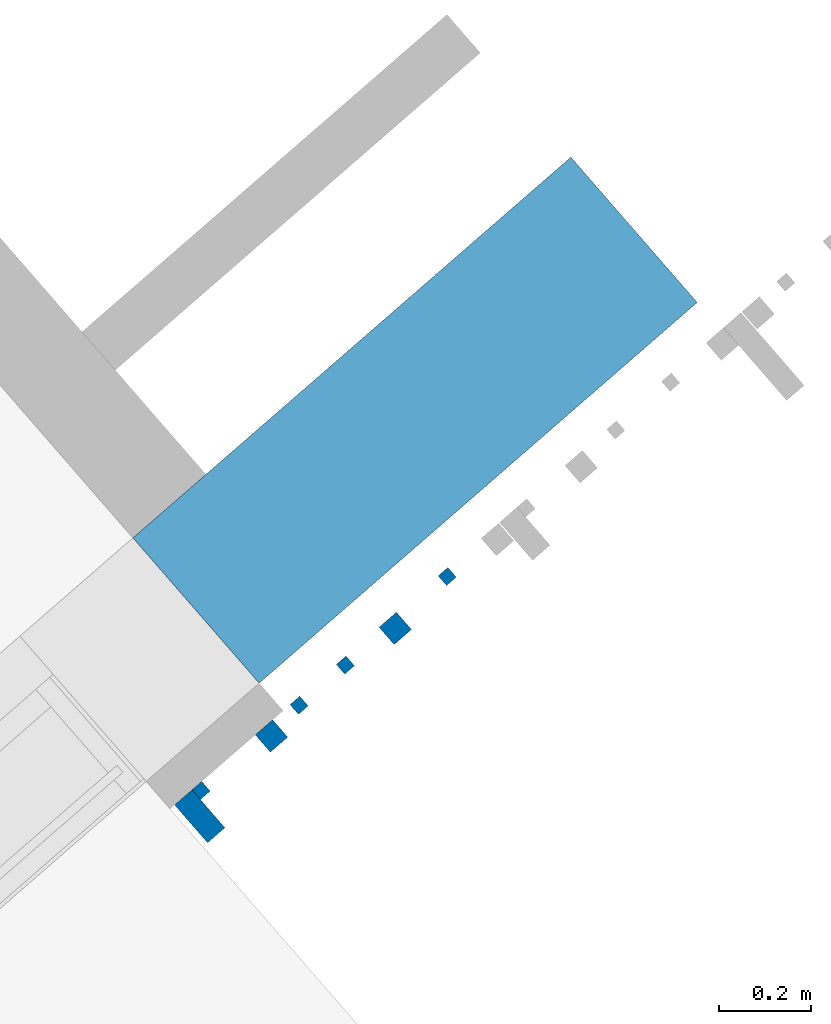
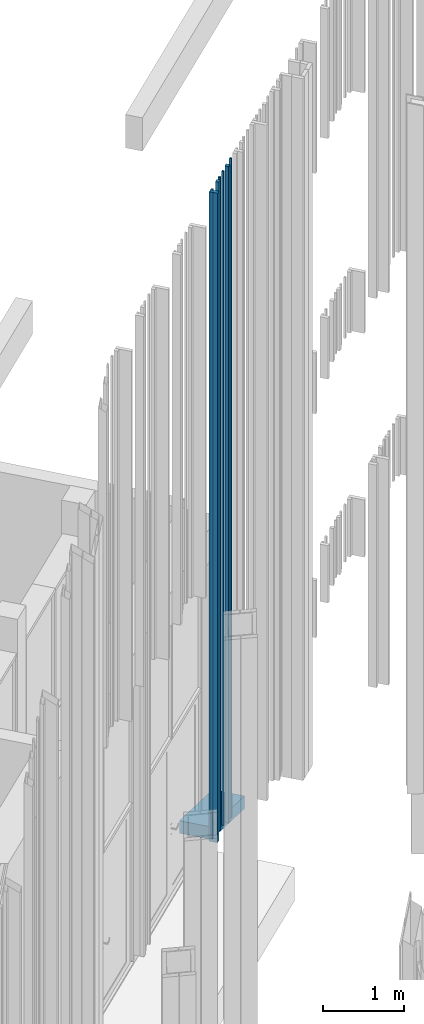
# One storey, part 209 of 390: 8 walls.
"""IFC2X3 building model written with IfcOpenShell, lengths in millimetres."""

from ifc_helpers import new_model, entity, si_unit, converted_unit, derived_unit, money_unit, direction, frame, origin_with_axes, place, context, subcontext, project, spatial, faceted_brep, material, material_list, type_object, element, save


model = new_model("IFC2X3")

# Units and contexts
model_context = context("Model", 3, precision=1e-05, world=origin_with_axes(), true_north=direction((0.0, 1.0)))
body_context = subcontext(model_context, "Body", "Model", "MODEL_VIEW")
ifc_project = project(units=[si_unit("LENGTHUNIT", "METRE", prefix="MILLI"), si_unit("AREAUNIT", "SQUARE_METRE"), si_unit("VOLUMEUNIT", "CUBIC_METRE"), converted_unit("PLANEANGLEUNIT", "DEGREE", entity("IfcPlaneAngleMeasure", 0.0174532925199), si_unit("PLANEANGLEUNIT", "RADIAN"), dimensions=[0, 0, 0, 0, 0, 0, 0]), si_unit("SOLIDANGLEUNIT", "STERADIAN"), money_unit("EUR"), converted_unit("TIMEUNIT", "Year", entity("IfcTimeMeasure", 31556926.0), si_unit("TIMEUNIT", "SECOND"), dimensions=[0, 0, 1, 0, 0, 0, 0]), si_unit("MASSUNIT", "GRAM", prefix="KILO"), si_unit("THERMODYNAMICTEMPERATUREUNIT", "DEGREE_CELSIUS"), si_unit("LUMINOUSINTENSITYUNIT", "LUMEN"), si_unit("ENERGYUNIT", "JOULE", prefix="MEGA"), derived_unit("THERMALCONDUCTANCEUNIT", [(si_unit("POWERUNIT", "WATT"), 1), (si_unit("LENGTHUNIT", "METRE"), -1), (si_unit("THERMODYNAMICTEMPERATUREUNIT", "KELVIN"), -1)]), derived_unit("SPECIFICHEATCAPACITYUNIT", [(si_unit("ENERGYUNIT", "JOULE"), 1), (si_unit("MASSUNIT", "GRAM", prefix="KILO"), -1), (si_unit("THERMODYNAMICTEMPERATUREUNIT", "KELVIN"), -1)]), derived_unit("MASSDENSITYUNIT", [(si_unit("MASSUNIT", "GRAM", prefix="KILO"), 1), (si_unit("VOLUMEUNIT", "CUBIC_METRE"), -1)])], contexts=[model_context])

# Site, building, storey
site_placement = place(None, origin_with_axes())
site = spatial("IfcSite", under=ifc_project, at=site_placement, Name="Site", CompositionType="ELEMENT")
building_placement = place(site_placement, origin_with_axes())
building = spatial("IfcBuilding", under=site, at=building_placement, Name="Building", CompositionType="ELEMENT")
storey_placement = place(building_placement, origin_with_axes())
storey = spatial("IfcBuildingStorey", under=building, at=storey_placement, Name="1 korrus", CompositionType="ELEMENT", Elevation=0.0)

# Walls
ifc_material_1 = material(Name="Site specified")
wall_type_1 = type_object("IfcWallType", Name="Puitfassaadi ribistik", PredefinedType="NOTDEFINED")
wall_1_placement = place(storey_placement, frame((148844.773829, 74033.979679, 74.0945927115), z_axis=(0.0, 0.0, 1.0), x_axis=(-0.754709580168, -0.656059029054, 0.0)))
element("IfcWall", 1, at=wall_1_placement, inside=storey, type_object=wall_type_1, material=ifc_material_1, Name="Site specified", context=body_context, shape_type="Brep", body=[
    faceted_brep([(14.0, -14.0, 9790.90540729), (-14.0, -14.0, 9790.90540729), (-14.0, -14.0, 0.0), (14.0, -14.0, 0.0), (14.0, 14.0, 9790.90540729), (-14.0, 14.0, 9790.90540729), (-14.0, 14.0, 0.0), (14.0, 14.0, 0.0)], [[[0, 1, 2, 3]], [[4, 5, 1, 0]], [[1, 5, 6, 2]], [[7, 3, 2, 6]], [[4, 0, 3, 7]], [[5, 4, 7, 6]]]),
])
wall_2_placement = place(storey_placement, frame((148784.821326, 73967.28862, 100.0), z_axis=(0.0, 0.0, 1.0), x_axis=(-0.754709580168, -0.656059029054, 0.0)))
element("IfcWall", 2, at=wall_2_placement, inside=storey, type_object=wall_type_1, material=ifc_material_1, Name="Site specified", context=body_context, shape_type="Brep", body=[
    faceted_brep([(-25.0, -25.0, 9765.0), (-25.0, -25.0, 0.0), (25.0, -25.0, 0.0), (25.0, -25.0, 9765.0), (-25.0, 25.0, 9765.0), (-25.0, 25.0, 0.0), (25.0, 25.0, 0.0), (25.0, 25.0, 9765.0)], [[[0, 1, 2, 3]], [[4, 5, 1, 0]], [[2, 1, 5, 6]], [[3, 2, 6, 7]], [[4, 0, 3, 7]], [[7, 6, 5, 4]]]),
])
wall_3_placement = place(storey_placement, frame((148945.150204, 74121.2355298, 35.5650319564), z_axis=(0.0, 0.0, 1.0), x_axis=(-0.754709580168, -0.656059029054, 0.0)))
element("IfcWall", 3, at=wall_3_placement, inside=storey, type_object=wall_type_1, material=ifc_material_1, Name="Site specified", context=body_context, shape_type="Brep", body=[
    faceted_brep([(14.0, -14.0, 9829.43496804), (-14.0, -14.0, 9829.43496804), (-14.0, -14.0, 0.0), (14.0, -14.0, 0.0), (14.0, 14.0, 9829.43496804), (-14.0, 14.0, 9829.43496804), (-14.0, 14.0, 0.0), (14.0, 14.0, 0.0)], [[[0, 1, 2, 3]], [[4, 5, 1, 0]], [[1, 5, 6, 2]], [[7, 3, 2, 6]], [[4, 0, 3, 7]], [[5, 4, 7, 6]]]),
])
wall_4_placement = place(storey_placement, frame((148631.945723, 73848.9710285, 100.0), z_axis=(0.0, 0.0, 1.0), x_axis=(-0.754709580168, -0.656059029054, 0.0)))
element("IfcWall", 4, at=wall_4_placement, inside=storey, type_object=wall_type_1, material=ifc_material_1, Name="Site specified", context=body_context, shape_type="Brep", body=[
    faceted_brep([(-14.0, -14.0, 9765.0), (-14.0, -14.0, 0.0), (14.0, -14.0, 0.0), (14.0, -14.0, 9765.0), (-14.0, 14.0, 9765.0), (-14.0, 14.0, 0.0), (14.0, 14.0, 0.0), (14.0, 14.0, 9765.0)], [[[0, 1, 2, 3]], [[4, 5, 1, 0]], [[2, 1, 5, 6]], [[3, 2, 6, 7]], [[4, 0, 3, 7]], [[7, 6, 5, 4]]]),
])
wall_5_placement = place(storey_placement, frame((148629.08244, 73792.8189883, 100.0), z_axis=(0.0, 0.0, 1.0), x_axis=(-0.754709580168, -0.656059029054, 0.0)))
element("IfcWall", 5, at=wall_5_placement, inside=storey, type_object=wall_type_1, material=ifc_material_1, Name="Site specified", context=body_context, shape_type="Brep", body=[
    faceted_brep([(-25.0, -54.5, 9765.0), (-25.0, -54.5, 0.0), (25.0, -54.5, 0.0), (25.0, -54.5, 9765.0), (-25.0, 54.5, 9765.0), (-25.0, 54.5, 0.0), (25.0, 54.5, 0.0), (25.0, 54.5, 9765.0)], [[[0, 1, 2, 3]], [[4, 5, 1, 0]], [[2, 1, 5, 6]], [[3, 2, 6, 7]], [[4, 0, 3, 7]], [[7, 6, 5, 4]]]),
])
wall_6_placement = place(storey_placement, frame((149166.280111, 74313.4608254, -49.315880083), z_axis=(0.0, 0.0, 1.0), x_axis=(-0.754709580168, -0.656059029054, 0.0)))
element("IfcWall", 6, at=wall_6_placement, inside=storey, type_object=wall_type_1, material=ifc_material_1, Name="Site specified", context=body_context, shape_type="Brep", body=[
    faceted_brep([(-14.0, -14.0, 9914.31588008), (-14.0, -14.0, 0.0), (14.0, -14.0, 0.0), (14.0, -14.0, 9914.31588008), (-14.0, 14.0, 9914.31588008), (-14.0, 14.0, 0.0), (14.0, 14.0, 0.0), (14.0, 14.0, 9914.31588008)], [[[0, 1, 2, 3]], [[4, 5, 1, 0]], [[2, 1, 5, 6]], [[3, 2, 6, 7]], [[4, 0, 3, 7]], [[7, 6, 5, 4]]]),
])
wall_7_placement = place(storey_placement, frame((149053.497937, 74200.8456344, -6.440880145), z_axis=(0.0, 0.0, 1.0), x_axis=(-0.754709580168, -0.656059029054, 0.0)))
element("IfcWall", 7, at=wall_7_placement, inside=storey, type_object=wall_type_1, material=ifc_material_1, Name="Site specified", context=body_context, shape_type="Brep", body=[
    faceted_brep([(-25.0, -25.0, 9871.44088015), (-25.0, -25.0, 0.0), (25.0, -25.0, 0.0), (25.0, -25.0, 9871.44088015), (-25.0, 25.0, 9871.44088015), (-25.0, 25.0, 0.0), (25.0, 25.0, 0.0), (25.0, 25.0, 9871.44088015)], [[[0, 1, 2, 3]], [[4, 5, 1, 0]], [[2, 1, 5, 6]], [[3, 2, 6, 7]], [[4, 0, 3, 7]], [[7, 6, 5, 4]]]),
])
ifc_material_2 = material(Name="Plaat - Sein")
ifc_material_3 = material(Name="Soojustus - Plastik Kõva")
ifc_material_4 = material(Name="Raudbetoon - Konstruktsioon")
ifc_material_5 = material(Name="Krohv - Lubjakivi")
ifc_material_list = material_list([ifc_material_2, ifc_material_3, ifc_material_3, ifc_material_4, ifc_material_5])
wall_type_2 = type_object("IfcWallType", Name="VS-05", PredefinedType="NOTDEFINED")
wall_8_placement = place(storey_placement, frame((149434.774748, 75223.9412925, -465.006582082), z_axis=(0.0, 0.0, 1.0), x_axis=(-0.754709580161, -0.656059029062, 0.0)))
element("IfcWall", 8, at=wall_8_placement, inside=storey, type_object=wall_type_2, material=ifc_material_list, Name="VS-05", context=body_context, shape_type="Brep", body=[
    faceted_brep([(1259.96454056, 418.0, 365.00661904), (-3.56692453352e-08, 418.0, 1.23071997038e-07), (3.65503183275e-08, 418.0, 188.000000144), (1259.96454056, 418.0, 553.00661904), (-3.56408236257e-08, 410.0, 1.23023591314e-07), (1259.96454056, 410.0, 365.00661904), (3.66355834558e-08, 410.0, 188.000000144), (1259.96454056, 410.0, 553.00661904)], [[[0, 1, 2, 3]], [[4, 1, 0, 5]], [[1, 4, 6, 2]], [[7, 3, 2, 6]], [[5, 0, 3, 7]], [[4, 5, 7, 6]]]),
    faceted_brep([(1259.96454056, 410.0, 365.00661904), (-3.56408236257e-08, 410.0, 1.23023591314e-07), (3.66355834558e-08, 410.0, 188.000000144), (1259.96454056, 410.0, 553.00661904), (-3.55555584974e-08, 360.0, 1.22721610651e-07), (1259.96454056, 360.0, 365.00661904), (3.70619090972e-08, 360.0, 188.000000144), (1259.96454056, 360.0, 553.00661904)], [[[0, 1, 2, 3]], [[4, 1, 0, 5]], [[1, 4, 6, 2]], [[7, 3, 2, 6]], [[5, 0, 3, 7]], [[4, 5, 7, 6]]]),
    faceted_brep([(1259.96454056, 360.0, 365.00661904), (-3.55555584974e-08, 360.0, 1.22721610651e-07), (3.70619090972e-08, 360.0, 188.000000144), (1259.96454056, 360.0, 553.00661904), (-3.52997631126e-08, 210.0, 1.21809895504e-07), (1259.96454056, 210.0, 365.006619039), (3.83124643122e-08, 210.0, 188.000000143), (1259.96454056, 210.0, 553.006619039)], [[[0, 1, 2, 3]], [[4, 1, 0, 5]], [[1, 4, 6, 2]], [[7, 3, 2, 6]], [[5, 0, 3, 7]], [[4, 5, 7, 6]]]),
    faceted_brep([(1259.96454056, 210.0, 365.006619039), (-3.52997631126e-08, 210.0, 1.21809895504e-07), (3.83124643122e-08, 210.0, 188.000000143), (1259.96454056, 210.0, 553.006619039), (-3.49587025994e-08, 10.0, 1.20593091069e-07), (1259.96454056, 10.0, 365.006619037), (4.00461885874e-08, 10.0, 188.000000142), (1259.96454056, 10.0, 553.006619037)], [[[0, 1, 2, 3]], [[4, 1, 0, 5]], [[1, 4, 6, 2]], [[7, 3, 2, 6]], [[5, 0, 3, 7]], [[4, 5, 7, 6]]]),
    faceted_brep([(1259.96454056, 10.0, 365.006619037), (-3.49587025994e-08, 10.0, 1.20593091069e-07), (4.0017766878e-08, 10.0, 188.000000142), (1259.96454056, 10.0, 553.006619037), (-3.493028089e-08, 0.0, 1.20534027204e-07), (1259.96454056, 0.0, 365.006619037), (4.01314537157e-08, 0.0, 188.000000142), (1259.96454056, 0.0, 553.006619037)], [[[0, 1, 2, 3]], [[4, 1, 0, 5]], [[1, 4, 6, 2]], [[7, 3, 2, 6]], [[5, 0, 3, 7]], [[4, 5, 7, 6]]]),
])

save(model, "model.ifc")
